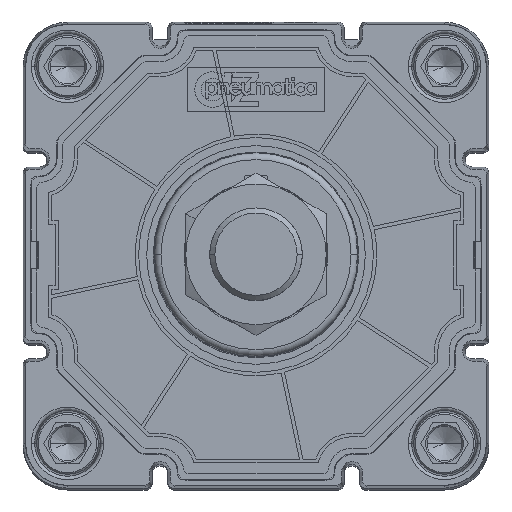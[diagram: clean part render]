
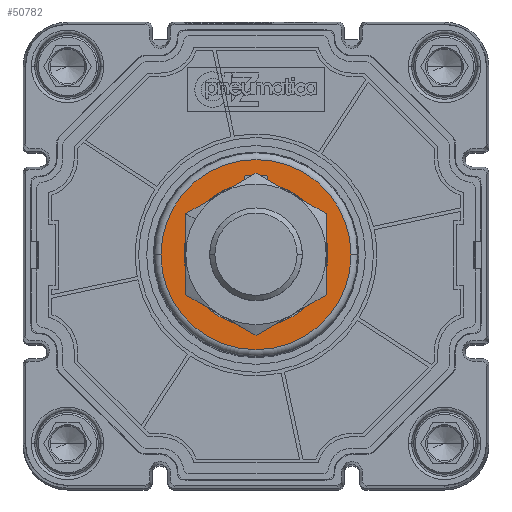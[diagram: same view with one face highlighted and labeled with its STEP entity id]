
A CAD part, top view. The second image highlights one B-rep face of the part: STEP entity #50782.
In plain terms, the highlighted planar face has unit normal (0, 0, 1) as drawn and (0, 0, -1) by its records, which use the part's own axes.
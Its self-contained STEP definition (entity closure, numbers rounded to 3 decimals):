
#537 = CARTESIAN_POINT ( 'NONE',  ( 0., 27.738, -82.7 ) ) ;
#1446 = CARTESIAN_POINT ( 'NONE',  ( 0., 0., -82.7 ) ) ;
#1927 = DIRECTION ( 'NONE',  ( 1., 0., 0. ) ) ;
#4202 = EDGE_CURVE ( 'NONE', #9357, #34503, #15123, .T. ) ;
#4214 = LINE ( 'NONE', #4323, #59473 ) ;
#4323 = CARTESIAN_POINT ( 'NONE',  ( -3.5, 22.2, -82.7 ) ) ;
#5062 = CARTESIAN_POINT ( 'NONE',  ( -2.5, 22.2, -82.7 ) ) ;
#5867 = AXIS2_PLACEMENT_3D ( 'NONE', #32971, #70257, #49088 ) ;
#6437 = ORIENTED_EDGE ( 'NONE', *, *, #62276, .T. ) ;
#6469 = DIRECTION ( 'NONE',  ( 0., 0., 1. ) ) ;
#6490 = CARTESIAN_POINT ( 'NONE',  ( -2.5, 23.2, -82.7 ) ) ;
#7273 = ORIENTED_EDGE ( 'NONE', *, *, #66868, .F. ) ;
#7978 = EDGE_CURVE ( 'NONE', #34503, #23820, #52571, .T. ) ;
#8494 = EDGE_CURVE ( 'NONE', #41267, #64155, #20343, .T. ) ;
#9357 = VERTEX_POINT ( 'NONE', #68056 ) ;
#11669 = VERTEX_POINT ( 'NONE', #47859 ) ;
#14409 = CARTESIAN_POINT ( 'NONE',  ( -3.5, 22.2, -82.7 ) ) ;
#14773 = DIRECTION ( 'NONE',  ( 0., 0., 1. ) ) ;
#15123 = CIRCLE ( 'NONE', #31731, 1. ) ;
#15707 = DIRECTION ( 'NONE',  ( 1., 0., 0. ) ) ;
#15899 = ORIENTED_EDGE ( 'NONE', *, *, #8494, .F. ) ;
#16385 = ORIENTED_EDGE ( 'NONE', *, *, #7978, .F. ) ;
#16637 = PLANE ( 'NONE',  #63581 ) ;
#18066 = DIRECTION ( 'NONE',  ( -1., 0., 0. ) ) ;
#18775 = CARTESIAN_POINT ( 'NONE',  ( 2.5, 22.2, -82.7 ) ) ;
#19455 = VECTOR ( 'NONE', #58100, 1000. ) ;
#19915 = CARTESIAN_POINT ( 'NONE',  ( 2.5, 23.2, -82.7 ) ) ;
#20311 = CARTESIAN_POINT ( 'NONE',  ( 0., 0., -82.7 ) ) ;
#20343 = CIRCLE ( 'NONE', #21897, 1. ) ;
#21075 = DIRECTION ( 'NONE',  ( 0., -1., 0. ) ) ;
#21897 = AXIS2_PLACEMENT_3D ( 'NONE', #5062, #53255, #15707 ) ;
#22902 = CIRCLE ( 'NONE', #33947, 21. ) ;
#23820 = VERTEX_POINT ( 'NONE', #58422 ) ;
#25174 = EDGE_LOOP ( 'NONE', ( #6437, #34976, #30446, #16385, #64985, #7273, #15899, #63419 ) ) ;
#25254 = DIRECTION ( 'NONE',  ( 1., 0., 0. ) ) ;
#25641 = ORIENTED_EDGE ( 'NONE', *, *, #51321, .F. ) ;
#25696 = DIRECTION ( 'NONE',  ( 0., 0., 1. ) ) ;
#28048 = CARTESIAN_POINT ( 'NONE',  ( 0., 0., -82.7 ) ) ;
#28772 = VECTOR ( 'NONE', #21075, 1000. ) ;
#29130 = EDGE_CURVE ( 'NONE', #29461, #57612, #63882, .T. ) ;
#29461 = VERTEX_POINT ( 'NONE', #51959 ) ;
#30446 = ORIENTED_EDGE ( 'NONE', *, *, #60456, .T. ) ;
#31731 = AXIS2_PLACEMENT_3D ( 'NONE', #18775, #50580, #18066 ) ;
#32147 = VERTEX_POINT ( 'NONE', #66756 ) ;
#32971 = CARTESIAN_POINT ( 'NONE',  ( 0., 0., -82.7 ) ) ;
#33311 = VERTEX_POINT ( 'NONE', #67781 ) ;
#33478 = FACE_OUTER_BOUND ( 'NONE', #60856, .T. ) ;
#33947 = AXIS2_PLACEMENT_3D ( 'NONE', #28048, #6469, #1927 ) ;
#34503 = VERTEX_POINT ( 'NONE', #57872 ) ;
#34976 = ORIENTED_EDGE ( 'NONE', *, *, #52148, .T. ) ;
#35887 = EDGE_CURVE ( 'NONE', #33311, #41267, #4214, .T. ) ;
#35929 = CARTESIAN_POINT ( 'NONE',  ( 0., 0., -82.7 ) ) ;
#39437 = DIRECTION ( 'NONE',  ( 0., 0., 1. ) ) ;
#39444 = DIRECTION ( 'NONE',  ( 0., 0., 1. ) ) ;
#40211 = CIRCLE ( 'NONE', #67465, 21. ) ;
#41057 = CARTESIAN_POINT ( 'NONE',  ( -27.738, 0., -82.7 ) ) ;
#41267 = VERTEX_POINT ( 'NONE', #14409 ) ;
#42326 = DIRECTION ( 'NONE',  ( 0., 1., 0. ) ) ;
#43846 = ORIENTED_EDGE ( 'NONE', *, *, #29130, .F. ) ;
#47859 = CARTESIAN_POINT ( 'NONE',  ( -21., 0., -82.7 ) ) ;
#49088 = DIRECTION ( 'NONE',  ( 1., 0., 0. ) ) ;
#50580 = DIRECTION ( 'NONE',  ( 0., 0., -1. ) ) ;
#50782 = ADVANCED_FACE ( 'NONE', ( #33478, #64085 ), #16637, .F. ) ;
#51321 = EDGE_CURVE ( 'NONE', #57612, #29461, #54620, .T. ) ;
#51959 = CARTESIAN_POINT ( 'NONE',  ( 27.738, 0., -82.7 ) ) ;
#52124 = CARTESIAN_POINT ( 'NONE',  ( 3.5, 22.2, -82.7 ) ) ;
#52148 = EDGE_CURVE ( 'NONE', #11669, #32147, #67957, .T. ) ;
#52325 = AXIS2_PLACEMENT_3D ( 'NONE', #20311, #25696, #63239 ) ;
#52571 = LINE ( 'NONE', #52124, #28772 ) ;
#53255 = DIRECTION ( 'NONE',  ( 0., 0., -1. ) ) ;
#54620 = CIRCLE ( 'NONE', #5867, 27.738 ) ;
#55364 = DIRECTION ( 'NONE',  ( 1., 0., 0. ) ) ;
#57612 = VERTEX_POINT ( 'NONE', #41057 ) ;
#57872 = CARTESIAN_POINT ( 'NONE',  ( 3.5, 22.2, -82.7 ) ) ;
#58100 = DIRECTION ( 'NONE',  ( 1., 0., 0. ) ) ;
#58422 = CARTESIAN_POINT ( 'NONE',  ( 3.5, 20.706, -82.7 ) ) ;
#59473 = VECTOR ( 'NONE', #42326, 1000. ) ;
#60456 = EDGE_CURVE ( 'NONE', #32147, #23820, #40211, .T. ) ;
#60856 = EDGE_LOOP ( 'NONE', ( #43846, #25641 ) ) ;
#62276 = EDGE_CURVE ( 'NONE', #33311, #11669, #22902, .T. ) ;
#63239 = DIRECTION ( 'NONE',  ( 1., 0., 0. ) ) ;
#63419 = ORIENTED_EDGE ( 'NONE', *, *, #35887, .F. ) ;
#63581 = AXIS2_PLACEMENT_3D ( 'NONE', #537, #39444, #66094 ) ;
#63882 = CIRCLE ( 'NONE', #68602, 27.738 ) ;
#64085 = FACE_BOUND ( 'NONE', #25174, .T. ) ;
#64155 = VERTEX_POINT ( 'NONE', #6490 ) ;
#64985 = ORIENTED_EDGE ( 'NONE', *, *, #4202, .F. ) ;
#66094 = DIRECTION ( 'NONE',  ( 1., 0., 0. ) ) ;
#66756 = CARTESIAN_POINT ( 'NONE',  ( 21., 0., -82.7 ) ) ;
#66868 = EDGE_CURVE ( 'NONE', #64155, #9357, #68681, .T. ) ;
#67465 = AXIS2_PLACEMENT_3D ( 'NONE', #35929, #14773, #25254 ) ;
#67781 = CARTESIAN_POINT ( 'NONE',  ( -3.5, 20.706, -82.7 ) ) ;
#67957 = CIRCLE ( 'NONE', #52325, 21. ) ;
#68056 = CARTESIAN_POINT ( 'NONE',  ( 2.5, 23.2, -82.7 ) ) ;
#68602 = AXIS2_PLACEMENT_3D ( 'NONE', #1446, #39437, #55364 ) ;
#68681 = LINE ( 'NONE', #19915, #19455 ) ;
#70257 = DIRECTION ( 'NONE',  ( 0., 0., 1. ) ) ;
